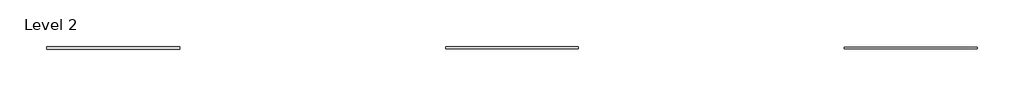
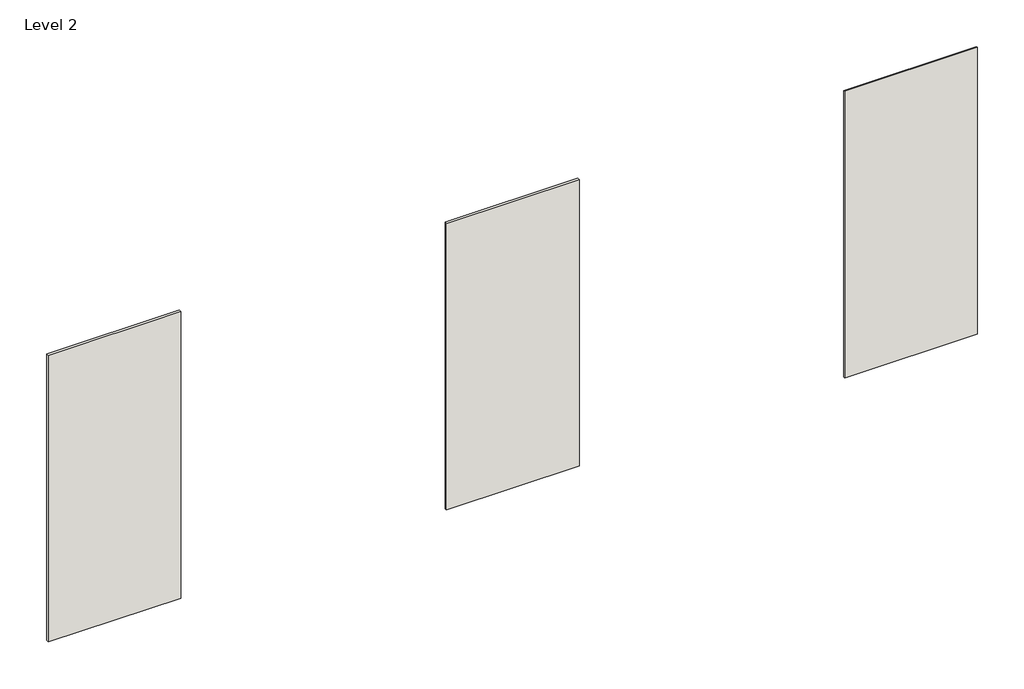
# One storey: 3 walls.
"""IFC4 building model written with IfcOpenShell, lengths in millimetres."""

from ifc_helpers import new_model, si_unit, frame, origin, place, context, project, spatial, polyline, outline, extrude, element, save

model = new_model("IFC4")

# Units and contexts
model_context = context("Model", 3, world=origin())
ifc_project = project(units=[si_unit("LENGTHUNIT", "METRE", prefix="MILLI")], contexts=[model_context])

# Site, building, storey
site = spatial("IfcSite", under=ifc_project)
building = spatial("IfcBuilding", under=site)
storey = spatial("IfcBuildingStorey", under=building, Name="Level 2", Elevation=4000.0)

# Walls
placement = place(None, origin())
element("IfcWall", 1, ObjectType="Windproof Plus 19mm 1200x2740", at=placement, inside=storey, context=model_context, shape_type="SweptSolid", body=[
    extrude(outline(polyline([(-82.735738, -1246.7130659), (-1282.735738, -1246.7130659), (-1282.735738, -1227.7130659), (-82.735738, -1227.7130659), (-82.735738, -1246.7130659)])), frame((0.0, 0.0, -300.0), z_axis=(0.0, 0.0, 1.0), x_axis=(1.0, 0.0, 0.0)), (0.0, 0.0, 1.0), 2740.0),
])
element("IfcWall", 2, ObjectType="Windproof Plus 25mm 1200x2740", at=placement, inside=storey, context=model_context, shape_type="SweptSolid", body=[
    extrude(outline(polyline([(-3682.735738, -1249.7130659), (-4882.735738, -1249.7130659), (-4882.735738, -1224.7130659), (-3682.735738, -1224.7130659), (-3682.735738, -1249.7130659)])), frame((0.0, 0.0, -300.0), z_axis=(0.0, 0.0, 1.0), x_axis=(1.0, 0.0, 0.0)), (0.0, 0.0, 1.0), 2740.0),
])
element("IfcWall", 3, ObjectType="Windproof Plus 15mm 1200x2740", at=placement, inside=storey, context=model_context, shape_type="SweptSolid", body=[
    extrude(outline(polyline([(3517.264262, -1244.7130659), (2317.264262, -1244.7130659), (2317.264262, -1229.7130659), (3517.264262, -1229.7130659), (3517.264262, -1244.7130659)])), frame((0.0, 0.0, -300.0), z_axis=(0.0, 0.0, 1.0), x_axis=(1.0, 0.0, 0.0)), (0.0, 0.0, 1.0), 2740.0),
])

save(model, "model.ifc")
